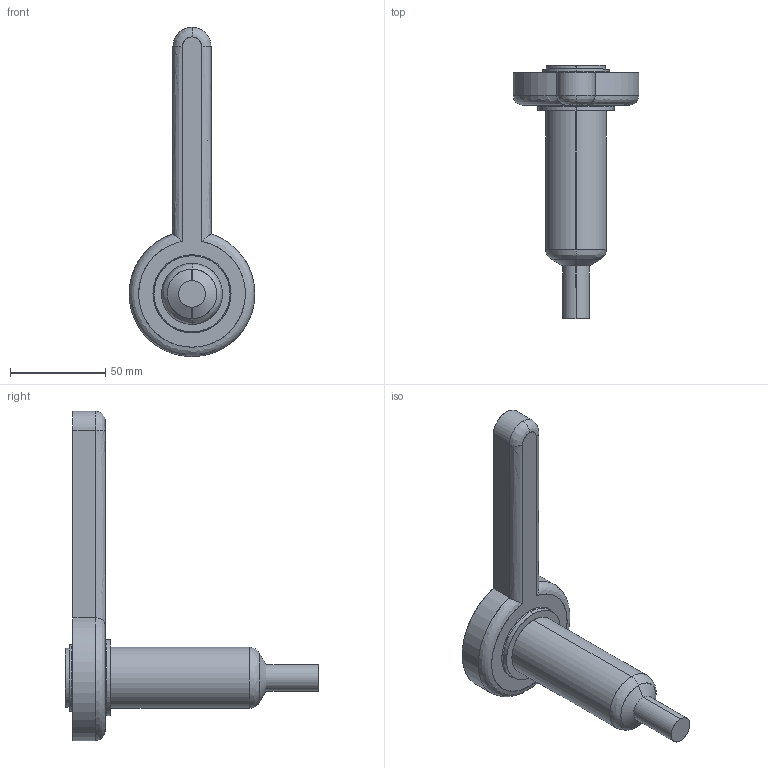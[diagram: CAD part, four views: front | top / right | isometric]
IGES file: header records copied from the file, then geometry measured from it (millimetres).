
Start section: SolidWorks IGES file using analytic representation for surfaces
Global section: file name: C:\Documents and Settings\ws-20\Desktop\TEMPORANEA\Sede UGBE4002-S-A C-84 L-106 P-25.IGS; native system: SolidWorks 2012; preprocessor: SolidWorks 2012; author: ws-20; date: 120306.141611; units: millimetre
Bounding box: 65.98 x 133.21 x 173 mm (x, y, z)
Surface area: 26857.1 mm2 (no closed solid volume)
Topology: 0 solids, 0 shells, 34 faces, 786 edges, 786 vertices
Faces by surface type: revolution 21, bspline 13
